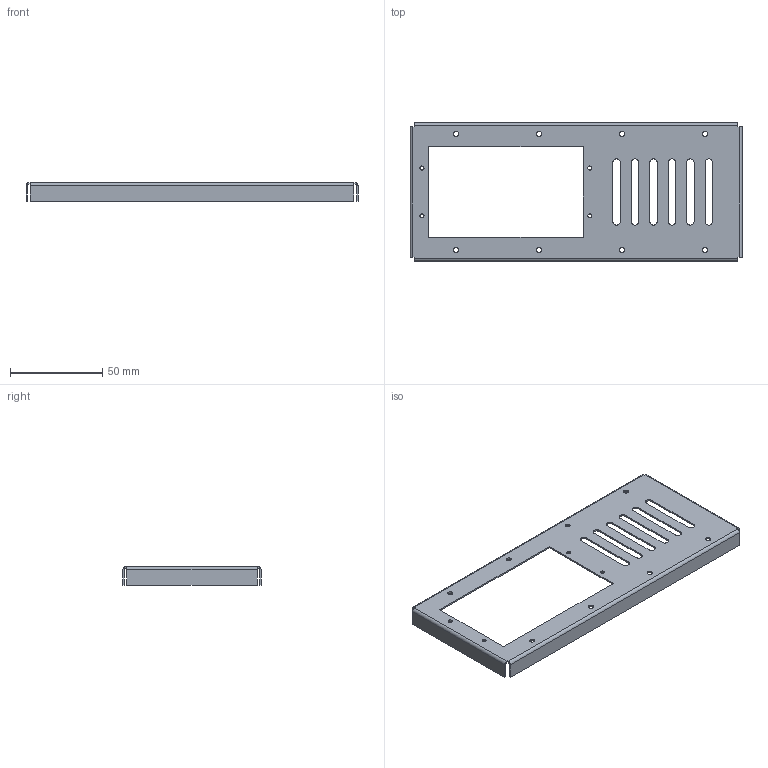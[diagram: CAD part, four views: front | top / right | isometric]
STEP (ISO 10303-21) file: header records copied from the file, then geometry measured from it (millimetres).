
FILE_DESCRIPTION(/* description */ (''),/* implementation_level */ '2;1');
FILE_NAME(/* name */ 'PDB-02-201_Main_Top_Cover_R01.step',/* time_stamp */ '2026-11-24T01:50:38+05:00',/* author */ (''),/* organization */ (''),/* preprocessor_version */ 'ST-DEVELOPER v20.2',/* originating_system */ 'Autodesk Translation Framework v15.17.0.0',/* authorisation */ '');
FILE_SCHEMA (('AUTOMOTIVE_DESIGN { 1 0 10303 214 3 1 1 }'));
Length unit declared in the file: centimetre
Products named in the file (1): 2026-11-24-01-50-37-808
Bounding box: 180 x 75 x 10 mm (x, y, z)
Volume: 10189.4 mm3; surface area: 26593.7 mm2
Topology: 1 solids, 1 shells, 86 faces, 220 edges, 136 vertices
Faces by surface type: plane 54, cylinder 32
Full cylindrical faces by diameter (mm): 2.2 x4, 2.7 x8
Entity records: 2681 total; most frequent: DIRECTION 458, CARTESIAN_POINT 443, ORIENTED_EDGE 440, EDGE_CURVE 220, LINE 156, VECTOR 156, AXIS2_PLACEMENT_3D 151, VERTEX_POINT 136
